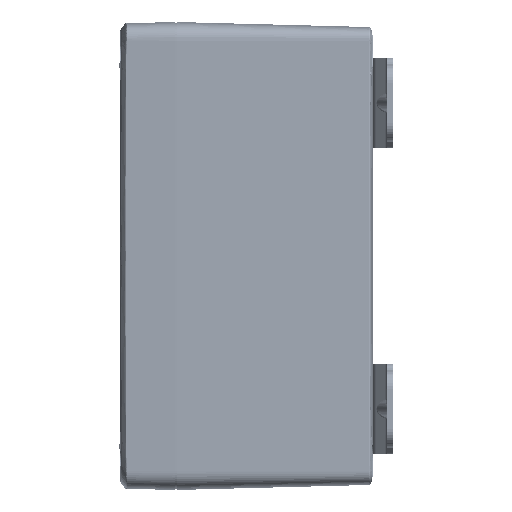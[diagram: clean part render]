
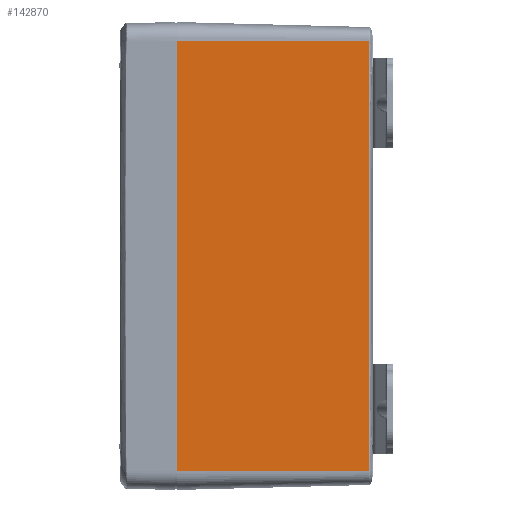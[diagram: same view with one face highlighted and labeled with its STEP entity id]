
A CAD part, left-side view. The second image highlights one B-rep face of the part: STEP entity #142870.
In plain terms, the highlighted planar face has unit normal (-1, -0.026, 0).
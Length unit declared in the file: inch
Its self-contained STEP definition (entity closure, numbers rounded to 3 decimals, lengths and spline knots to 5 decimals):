
#5496 = EDGE_CURVE ( 'NONE', #62477, #131731, #44619, .T. ) ;
#24410 = B_SPLINE_CURVE_WITH_KNOTS ( 'NONE', 3,
 ( #126564, #46529, #62286, #100141 ),
 .UNSPECIFIED., .F., .F.,
 ( 4, 4 ),
 ( 0., 1. ),
 .UNSPECIFIED. ) ;
#33686 = VECTOR ( 'NONE', #69180, 39.37008 ) ;
#33789 = DIRECTION ( 'NONE',  ( 0., 0., 1. ) ) ;
#38458 = CARTESIAN_POINT ( 'NONE',  ( -4.5625, 2.715, -2.98495 ) ) ;
#40038 = DIRECTION ( 'NONE',  ( -1., -0.026, 0. ) ) ;
#44619 = LINE ( 'NONE', #98239, #77910 ) ;
#46529 = CARTESIAN_POINT ( 'NONE',  ( -4.49264, 0.04699, -0.99498 ) ) ;
#46963 = CARTESIAN_POINT ( 'NONE',  ( -4.5625, 2.715, -2.98495 ) ) ;
#50197 = LINE ( 'NONE', #46963, #109786 ) ;
#51604 = ORIENTED_EDGE ( 'NONE', *, *, #148802, .T. ) ;
#57772 = EDGE_CURVE ( 'NONE', #88955, #62477, #50197, .T. ) ;
#62286 = CARTESIAN_POINT ( 'NONE',  ( -4.49264, 0.04699, 0.99498 ) ) ;
#62477 = VERTEX_POINT ( 'NONE', #164720 ) ;
#64655 = FACE_OUTER_BOUND ( 'NONE', #78622, .T. ) ;
#67076 = CARTESIAN_POINT ( 'NONE',  ( -4.49264, 0.04699, 2.98495 ) ) ;
#69180 = DIRECTION ( 'NONE',  ( 0.026, -1., 0. ) ) ;
#72064 = EDGE_CURVE ( 'NONE', #88955, #135477, #118509, .T. ) ;
#75869 = CARTESIAN_POINT ( 'NONE',  ( -4.5625, 2.715, -2.98495 ) ) ;
#77910 = VECTOR ( 'NONE', #114077, 39.37008 ) ;
#78622 = EDGE_LOOP ( 'NONE', ( #146624, #51604, #157071, #102954 ) ) ;
#80438 = CARTESIAN_POINT ( 'NONE',  ( -4.5625, 2.715, -2.98495 ) ) ;
#88955 = VERTEX_POINT ( 'NONE', #75869 ) ;
#98239 = CARTESIAN_POINT ( 'NONE',  ( -4.5625, 2.715, 2.98495 ) ) ;
#100141 = CARTESIAN_POINT ( 'NONE',  ( -4.49264, 0.04699, 2.98495 ) ) ;
#102954 = ORIENTED_EDGE ( 'NONE', *, *, #57772, .F. ) ;
#109690 = AXIS2_PLACEMENT_3D ( 'NONE', #80438, #40038, #119217 ) ;
#109786 = VECTOR ( 'NONE', #33789, 39.37008 ) ;
#114077 = DIRECTION ( 'NONE',  ( 0.026, -1., 0. ) ) ;
#118509 = LINE ( 'NONE', #38458, #33686 ) ;
#119217 = DIRECTION ( 'NONE',  ( 0.026, -1., 0. ) ) ;
#126564 = CARTESIAN_POINT ( 'NONE',  ( -4.49264, 0.04698, -2.98495 ) ) ;
#131731 = VERTEX_POINT ( 'NONE', #67076 ) ;
#132372 = PLANE ( 'NONE',  #109690 ) ;
#135477 = VERTEX_POINT ( 'NONE', #138042 ) ;
#138042 = CARTESIAN_POINT ( 'NONE',  ( -4.49264, 0.04698, -2.98495 ) ) ;
#142870 = ADVANCED_FACE ( 'Face2', ( #64655 ), #132372, .T. ) ;
#146624 = ORIENTED_EDGE ( 'NONE', *, *, #72064, .T. ) ;
#148802 = EDGE_CURVE ( 'NONE', #135477, #131731, #24410, .T. ) ;
#157071 = ORIENTED_EDGE ( 'NONE', *, *, #5496, .F. ) ;
#164720 = CARTESIAN_POINT ( 'NONE',  ( -4.5625, 2.715, 2.98495 ) ) ;
